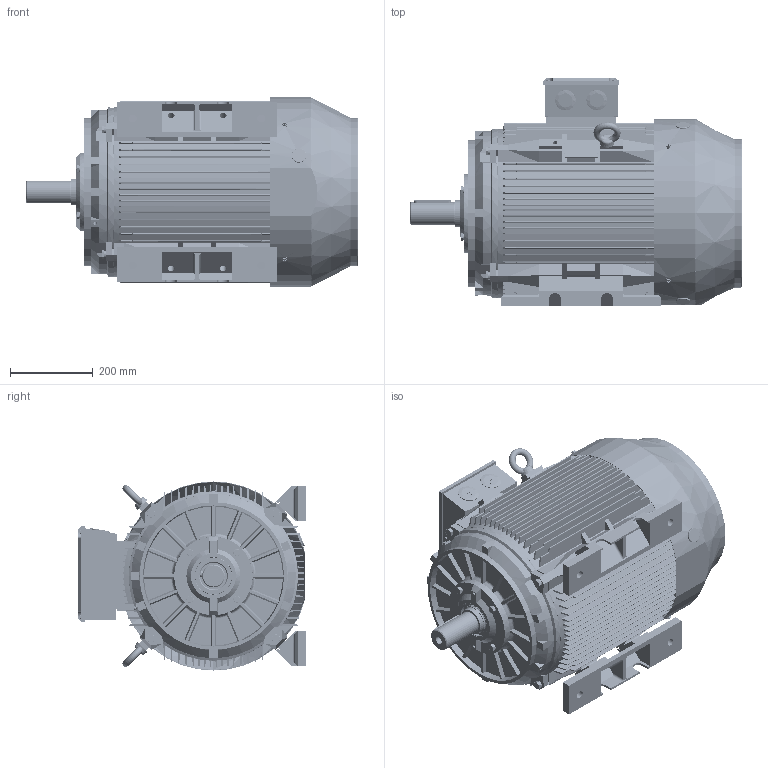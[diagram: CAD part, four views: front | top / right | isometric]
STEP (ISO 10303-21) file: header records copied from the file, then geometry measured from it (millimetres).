
FILE_DESCRIPTION (( 'STEP AP203' ), '1' );
FILE_NAME ('TC 225M-2 B3外形图.STEP', '2013-06-25T02:59:24', ( '微软用户' ), ( '微软中国' ), 'SwSTEP 2.0', 'SolidWorks 2008', '' );
FILE_SCHEMA (( 'CONFIG_CONTROL_DESIGN' ));
Length unit declared in the file: millimetre
Products named in the file (28): TC225M 底脚_默认; 6313_默认; TC 225 B3 端盖_默认; TC 225 轴承内盖_默认; TC 200-225接线盒座_默认; TC 200-225接线盒盖_默认; 10_默认; M10-70_默认; 12_默认; 平键16-90_默认; TC 225M-2 B3俋倛芞; TC225M B5机座_默认; TC 225 B3 端盖(后）_默认; TC 225 轴承外盖NDE_默认; TC 225M-2 转子_默认; TC 225M-2 轴_默认; TC 225 轴承外盖DE_默认; 油封65-90-10_默认; TC 225-4P 风叶_默认; TC 200-225接线盒_默认; M6-20_默认; 螺塞M40_默认; 铜油嘴_默认; 扣塞_默认; M12-45_默认; M6-10_默认; 吊环M16_默认; TC 225风罩_默认
Assembly tree (53 placements, depth 3):
  TC 225M-2 B3俋倛芞
    TC225M B5机座_默认
    12_默认  x4
    铜油嘴_默认  x2
    扣塞_默认  x2
    M12-45_默认  x4
    平键16-90_默认
    TC 225M-2 转子_默认
      TC 225M-2 轴_默认
      6313_默认  x2
    M10-70_默认  x4
    吊环M16_默认  x2
    10_默认  x4
    TC225M 底脚_默认  x2
    M6-10_默认  x4
    TC 200-225接线盒_默认
      M6-20_默认  x4
      TC 200-225接线盒座_默认
      螺塞M40_默认  x2
      TC 200-225接线盒盖_默认
    TC 225-4P 风叶_默认
    TC 225 B3 端盖(后）_默认
    TC 225 B3 端盖_默认
    TC 225 轴承外盖NDE_默认
    TC 225 轴承内盖_默认  x2
    油封65-90-10_默认  x2
    TC 225风罩_默认
    TC 225 轴承外盖DE_默认
Bounding box: 804.52 x 553.97 x 458.4 mm (x, y, z)
Volume: 21419745.6 mm3; surface area: 5199772.9 mm2
Topology: 53 solids, 54 shells, 8091 faces, 23360 edges, 15376 vertices
Faces by surface type: plane 4027, cylinder 3116, cone 422, torus 340, bspline 122, sphere 64
Entity records: 258542 total; most frequent: CARTESIAN_POINT 61667, ORIENTED_EDGE 41330, DIRECTION 39647, EDGE_CURVE 20665, AXIS2_PLACEMENT_3D 13743, VERTEX_POINT 13652, VECTOR 12161, LINE 12161
